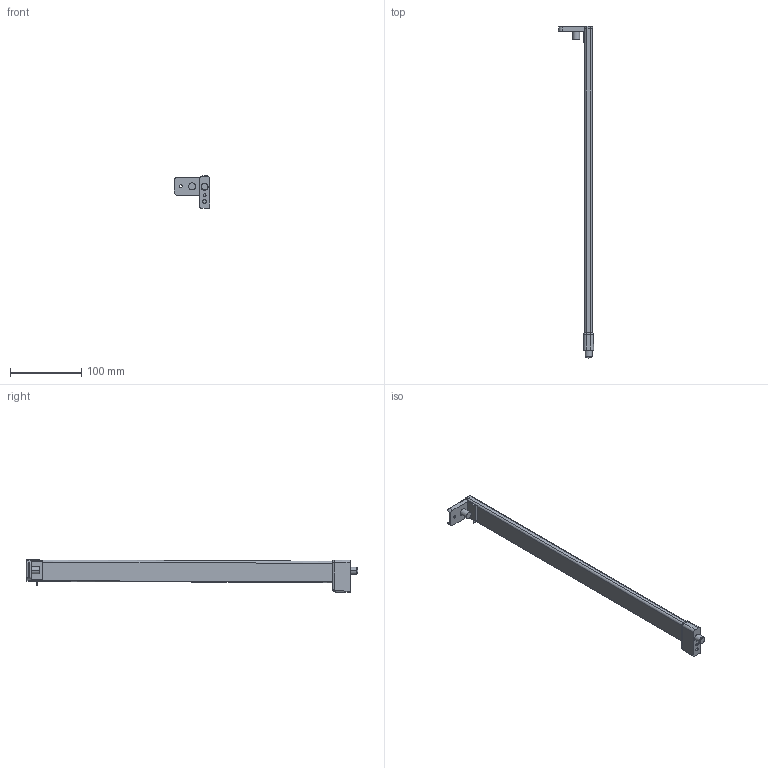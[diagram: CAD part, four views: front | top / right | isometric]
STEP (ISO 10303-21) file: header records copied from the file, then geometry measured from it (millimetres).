
FILE_DESCRIPTION (( 'STEP AP214' ), '1' );
FILE_NAME ('_2S_REL_7606_NL450_RE.step', '2010-07-01T14:41:35', ( 'grass' ), ( '' ), 'SwSTEP 2.0', 'SolidWorks 2009', '' );
FILE_SCHEMA (( 'AUTOMOTIVE_DESIGN' ));
Length unit declared in the file: millimetre
Products named in the file (1): _2S_REL_7606_NL450_RE
Bounding box: 49.25 x 465.5 x 45.4 mm (x, y, z)
Volume: 154059.2 mm3; surface area: 41446.1 mm2
Topology: 2 solids, 2 shells, 120 faces, 292 edges, 178 vertices
Faces by surface type: cylinder 58, plane 40, bspline 10, torus 6, cone 4, sphere 2
Entity records: 4659 total; most frequent: CARTESIAN_POINT 1934, ORIENTED_EDGE 580, DIRECTION 546, EDGE_CURVE 290, AXIS2_PLACEMENT_3D 203, VERTEX_POINT 178, VECTOR 140, LINE 140
